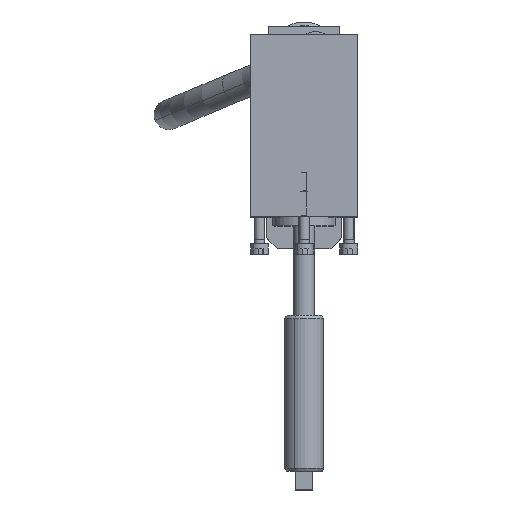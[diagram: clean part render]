
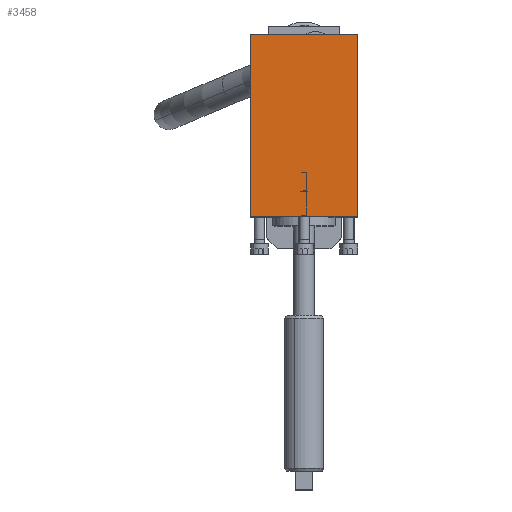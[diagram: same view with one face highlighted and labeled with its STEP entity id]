
A CAD part, top view. The second image highlights one B-rep face of the part: STEP entity #3458.
In plain terms, the highlighted planar face has unit normal (0, 0, 1).
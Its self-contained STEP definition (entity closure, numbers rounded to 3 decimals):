
#3226=CARTESIAN_POINT('Vertex',(-30.,60.,443.1)) ;
#3229=CARTESIAN_POINT('Line Origine',(0.,60.,443.1)) ;
#3233=CARTESIAN_POINT('Vertex',(30.,60.,443.1)) ;
#3391=CARTESIAN_POINT('Line Origine',(30.,9.,443.1)) ;
#3395=CARTESIAN_POINT('Vertex',(30.,-42.,443.1)) ;
#3435=CARTESIAN_POINT('Axis2P3D Location',(-30.,60.,443.1)) ;
#3440=CARTESIAN_POINT('Line Origine',(0.,-42.,443.1)) ;
#3444=CARTESIAN_POINT('Vertex',(-30.,-42.,443.1)) ;
#3447=CARTESIAN_POINT('Line Origine',(-30.,9.,443.1)) ;
#3230=DIRECTION('Vector Direction',(1.,0.,0.)) ;
#3392=DIRECTION('Vector Direction',(0.,-1.,0.)) ;
#3436=DIRECTION('Axis2P3D Direction',(0.,0.,-1.)) ;
#3437=DIRECTION('Axis2P3D XDirection',(1.,0.,0.)) ;
#3441=DIRECTION('Vector Direction',(1.,0.,0.)) ;
#3448=DIRECTION('Vector Direction',(0.,-1.,0.)) ;
#3438=AXIS2_PLACEMENT_3D('Plane Axis2P3D',#3435,#3436,#3437) ;
#3453=ORIENTED_EDGE('',*,*,#3446,.T.) ;
#3454=ORIENTED_EDGE('',*,*,#3397,.F.) ;
#3455=ORIENTED_EDGE('',*,*,#3235,.F.) ;
#3456=ORIENTED_EDGE('',*,*,#3451,.T.) ;
#3231=VECTOR('Line Direction',#3230,1.) ;
#3393=VECTOR('Line Direction',#3392,1.) ;
#3442=VECTOR('Line Direction',#3441,1.) ;
#3449=VECTOR('Line Direction',#3448,1.) ;
#3458=ADVANCED_FACE('',(#3457),#3439,.F.) ;
#3235=EDGE_CURVE('',#3227,#3234,#3232,.T.) ;
#3397=EDGE_CURVE('',#3234,#3396,#3394,.T.) ;
#3446=EDGE_CURVE('',#3445,#3396,#3443,.T.) ;
#3451=EDGE_CURVE('',#3227,#3445,#3450,.T.) ;
#3452=EDGE_LOOP('',(#3453,#3454,#3455,#3456)) ;
#3457=FACE_OUTER_BOUND('',#3452,.T.) ;
#3232=LINE('Line',#3229,#3231) ;
#3394=LINE('Line',#3391,#3393) ;
#3443=LINE('Line',#3440,#3442) ;
#3450=LINE('Line',#3447,#3449) ;
#3439=PLANE('Plane',#3438) ;
#3227=VERTEX_POINT('',#3226) ;
#3234=VERTEX_POINT('',#3233) ;
#3396=VERTEX_POINT('',#3395) ;
#3445=VERTEX_POINT('',#3444) ;
